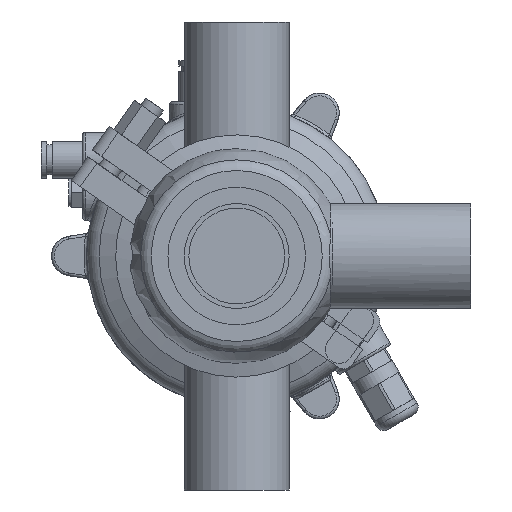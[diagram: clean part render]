
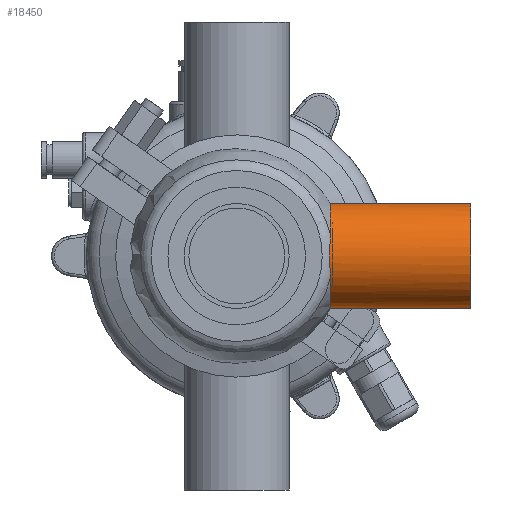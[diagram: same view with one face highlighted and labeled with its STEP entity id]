
A CAD part, front view. The second image highlights one B-rep face of the part: STEP entity #18450.
In plain terms, the highlighted cylindrical face has radius 19.05 mm (diameter 38.1 mm), a full revolution.
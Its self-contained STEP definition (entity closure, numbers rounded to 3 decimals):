
#2527 = CARTESIAN_POINT ( 'NONE',  ( 34.031, -17.366, 7.83 ) ) ;
#3098 = CARTESIAN_POINT ( 'NONE',  ( 33.936, -18.344, -5.312 ) ) ;
#3321 = CYLINDRICAL_SURFACE ( 'NONE', #26961, 19.05 ) ;
#3779 = EDGE_CURVE ( 'NONE', #16079, #39443, #7112, .T. ) ;
#4154 = CIRCLE ( 'NONE', #40225, 19.05 ) ;
#5177 = DIRECTION ( 'NONE',  ( -1., 0., 0. ) ) ;
#5384 = EDGE_LOOP ( 'NONE', ( #28115, #28308 ) ) ;
#7112 = CIRCLE ( 'NONE', #33399, 19.05 ) ;
#7916 = DIRECTION ( 'NONE',  ( -1., 0., 0. ) ) ;
#9551 = DIRECTION ( 'NONE',  ( 1., 0., 0. ) ) ;
#11491 = EDGE_CURVE ( 'NONE', #37379, #37379, #4154, .T. ) ;
#12559 = CARTESIAN_POINT ( 'NONE',  ( 34.031, -17.925, 6.591 ) ) ;
#12778 = CARTESIAN_POINT ( 'NONE',  ( 0., 0., 0. ) ) ;
#12856 = CARTESIAN_POINT ( 'NONE',  ( 33.693, -19.015, 1.339 ) ) ;
#14623 = DIRECTION ( 'NONE',  ( 0., 0., 1. ) ) ;
#16079 = VERTEX_POINT ( 'NONE', #56119 ) ;
#16832 = CARTESIAN_POINT ( 'NONE',  ( 33.755, -18.874, -2.667 ) ) ;
#18450 = ADVANCED_FACE ( 'NONE', ( #40560, #36302 ), #3321, .T. ) ;
#25112 = EDGE_LOOP ( 'NONE', ( #49807 ) ) ;
#26961 = AXIS2_PLACEMENT_3D ( 'NONE', #12778, #7916, #32051 ) ;
#28115 = ORIENTED_EDGE ( 'NONE', *, *, #3779, .T. ) ;
#28308 = ORIENTED_EDGE ( 'NONE', *, *, #54672, .T. ) ;
#30316 = CARTESIAN_POINT ( 'NONE',  ( 33.937, -18.342, 5.317 ) ) ;
#32051 = DIRECTION ( 'NONE',  ( 0., 0., 1. ) ) ;
#32834 = CARTESIAN_POINT ( 'NONE',  ( 85., 0., 19.05 ) ) ;
#33399 = AXIS2_PLACEMENT_3D ( 'NONE', #50335, #9551, #36409 ) ;
#36302 = FACE_OUTER_BOUND ( 'NONE', #25112, .T. ) ;
#36409 = DIRECTION ( 'NONE',  ( 0., 0., 1. ) ) ;
#37379 = VERTEX_POINT ( 'NONE', #32834 ) ;
#39443 = VERTEX_POINT ( 'NONE', #52587 ) ;
#39741 = CARTESIAN_POINT ( 'NONE',  ( 34.031, -17.366, -7.83 ) ) ;
#40225 = AXIS2_PLACEMENT_3D ( 'NONE', #46892, #5177, #14623 ) ;
#40560 = FACE_OUTER_BOUND ( 'NONE', #5384, .T. ) ;
#40634 = CARTESIAN_POINT ( 'NONE',  ( 33.799, -18.769, -3.33 ) ) ;
#44291 = CARTESIAN_POINT ( 'NONE',  ( 33.8, -18.765, 3.352 ) ) ;
#44859 = CARTESIAN_POINT ( 'NONE',  ( 33.693, -19.015, -1.338 ) ) ;
#46892 = CARTESIAN_POINT ( 'NONE',  ( 85., 0., 0. ) ) ;
#48798 = CARTESIAN_POINT ( 'NONE',  ( 33.675, -19.05, 0.667 ) ) ;
#49693 = CARTESIAN_POINT ( 'NONE',  ( 34.031, -17.924, -6.593 ) ) ;
#49807 = ORIENTED_EDGE ( 'NONE', *, *, #11491, .T. ) ;
#50335 = CARTESIAN_POINT ( 'NONE',  ( 34.031, 0., 0. ) ) ;
#52587 = CARTESIAN_POINT ( 'NONE',  ( 34.031, -17.366, 7.83 ) ) ;
#54578 = CARTESIAN_POINT ( 'NONE',  ( 33.756, -18.872, 2.686 ) ) ;
#54672 = EDGE_CURVE ( 'NONE', #39443, #16079, #55052, .T. ) ;
#55052 = B_SPLINE_CURVE_WITH_KNOTS ( 'NONE', 3,
 ( #2527, #12559, #30316, #44291, #54578, #12856, #48798, #58890, #44859, #16832, #40634, #3098, #49693, #39741 ),
 .UNSPECIFIED., .F., .F.,
 ( 4, 2, 2, 2, 2, 2, 4 ),
 ( 0., 0.004, 0.006, 0.008, 0.01, 0.012, 0.016 ),
 .UNSPECIFIED. ) ;
#56119 = CARTESIAN_POINT ( 'NONE',  ( 34.031, -17.366, -7.83 ) ) ;
#58890 = CARTESIAN_POINT ( 'NONE',  ( 33.675, -19.05, -0.671 ) ) ;
